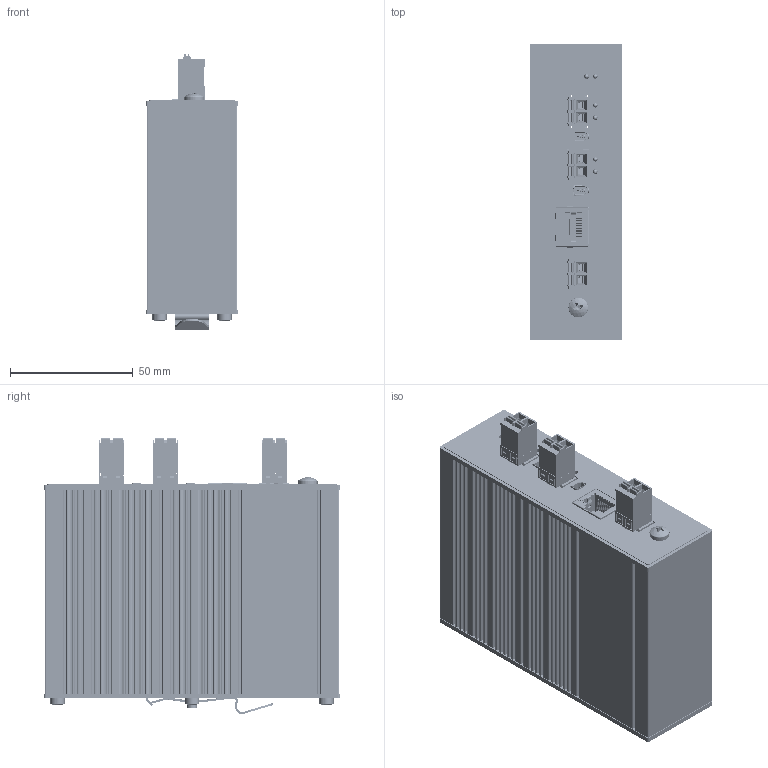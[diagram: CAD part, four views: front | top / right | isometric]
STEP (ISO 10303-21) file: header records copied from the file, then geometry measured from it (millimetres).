
FILE_DESCRIPTION (( 'STEP AP214' ), '1' );
FILE_NAME ('XELAN_210_client.STEP', '2024-03-01T15:19:53', ( '' ), ( '' ), 'SwSTEP 2.0', 'SolidWorks 2020', '' );
FILE_SCHEMA (( 'AUTOMOTIVE_DESIGN' ));
Length unit declared in the file: millimetre
Products named in the file (27): lexan-XELAN_210; VIS torx tête bombé M3 x 10; STP_691304500002 (rev1).stp; CNT_LINK-PP_LPJ16047A10NL.stp; XELAN_210_client; vis bombée cruciforme_M4x8_ISO 7045 - M4 x 6 - Z - 6N; APBDA3020CGK-cwx; MCA039_210; tdwcom21-2ports_2 ports client; MCB018_default; BLS150; SW_TE_2-1571999-7; hex tapping screws_iso2_Tapping Screw ISO 14585 - ST3.5 x 9.5-C-N; MCD043; vis bombée cruciforme_M4x8_ISO 7045 - M4 x 8 - Z - 8N; APBDA3020-cwx; 1757242_06_MSTBA-2-5-2-G-5-08_3D; RELAY_PANASONIC_AGN20003_AGN20003; 7793; tdwcom21; 0687900000.stp; 2726010000.stp
Assembly tree (41 placements, depth 3):
  XELAN_210_client
    MCD043
    MCB018_default
    STP_691304500002 (rev1).stp  x3
    0687900000.stp
    MCA039_210
    vis bombée cruciforme_M4x8_ISO 7045 - M4 x 8 - Z - 8N
    BLS150
      lexan-XELAN_210
    tdwcom21-2ports_2 ports client
      tdwcom21
      CNT_LINK-PP_LPJ16047A10NL.stp
      APBDA3020-cwx  x3
      2726010000.stp  x2
      1757242_06_MSTBA-2-5-2-G-5-08_3D  x3
      APBDA3020CGK-cwx  x3
      SW_TE_2-1571999-7
      7793
    RELAY_PANASONIC_AGN20003_AGN20003  x2
    VIS torx tête bombé M3 x 10
      hex tapping screws_iso2_Tapping Screw ISO 14585 - ST3.5 x 9.5-C-N
    VIS torx tête bombé M3 x 10
      hex tapping screws_iso2_Tapping Screw ISO 14585 - ST3.5 x 9.5-C-N
    VIS torx tête bombé M3 x 10
      hex tapping screws_iso2_Tapping Screw ISO 14585 - ST3.5 x 9.5-C-N
    VIS torx tête bombé M3 x 10
      hex tapping screws_iso2_Tapping Screw ISO 14585 - ST3.5 x 9.5-C-N
    VIS torx tête bombé M3 x 10
      hex tapping screws_iso2_Tapping Screw ISO 14585 - ST3.5 x 9.5-C-N
    VIS torx tête bombé M3 x 10
      hex tapping screws_iso2_Tapping Screw ISO 14585 - ST3.5 x 9.5-C-N
    vis bombée cruciforme_M4x8_ISO 7045 - M4 x 6 - Z - 6N
Bounding box: 37.6 x 120.6 x 112.48 mm (x, y, z)
Volume: 153969.9 mm3; surface area: 162955.1 mm2
Topology: 103 solids, 103 shells, 10014 faces, 27707 edges, 18162 vertices
Faces by surface type: plane 5480, cylinder 3445, bspline 930, cone 114, torus 25, sphere 20
Entity records: 246927 total; most frequent: CARTESIAN_POINT 52159, ORIENTED_EDGE 34326, DIRECTION 33164, EDGE_CURVE 17163, AXIS2_PLACEMENT_3D 11364, VERTEX_POINT 11298, LINE 10436, VECTOR 10436
